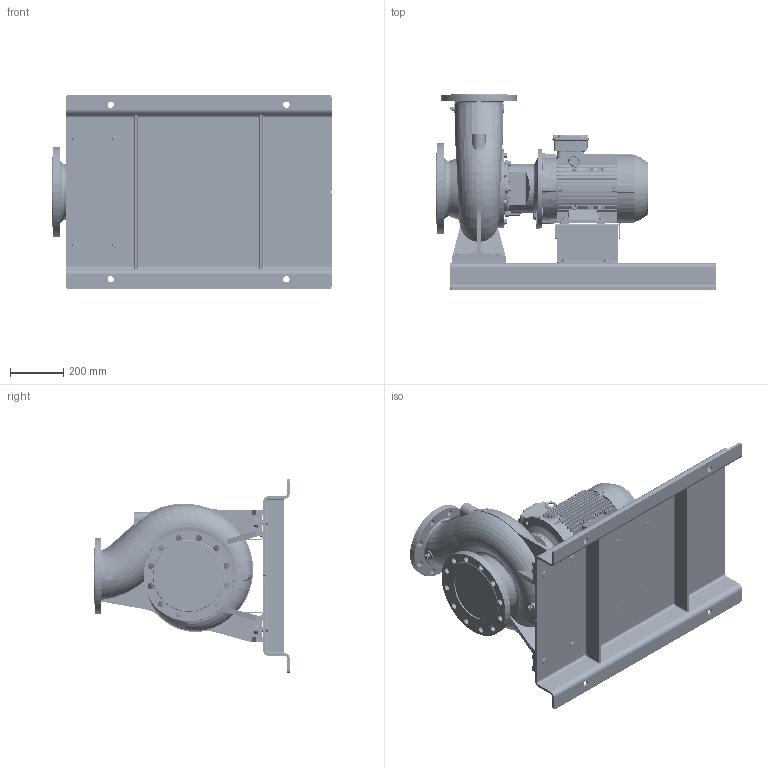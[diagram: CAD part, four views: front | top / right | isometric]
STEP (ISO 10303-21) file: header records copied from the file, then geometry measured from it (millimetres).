
FILE_DESCRIPTION (( 'STEP AP214' ), '1' );
FILE_NAME ('GSD4 150-200_5.5_(132S)_W21_BP.STEP', '2026-05-08T01:22:02', ( '' ), ( '' ), 'SwSTEP 2.0', 'SolidWorks 2024', '' );
FILE_SCHEMA (( 'AUTOMOTIVE_DESIGN' ));
Length unit declared in the file: millimetre
Products named in the file (13): Parametric bolt and washer_SFT-A403B; N9S5 GSDA-951 F1-1832965-00; GSD4 150-200_5.5_(132S)_W21_BP; Parametric bolt and washer_SFT-A249B; 150-200-132S_ﾃﾞﾌｫﾙﾄ; 132S ALIE3_W21T_B35; Parametric bolt_SFT-A403B; 140_178 x 148 BP - CGSDA-5246; Parametric bolt_SFT-A253B; Parametric bolt_SFT-A249B; Parametric Flat Washer_M10; Parametric bolt and washer_SFT-A253B; Parametric Flat Washer_M20
Assembly tree (22 placements, depth 3):
  GSD4 150-200_5.5_(132S)_W21_BP
    150-200-132S_ﾃﾞﾌｫﾙﾄ
    N9S5 GSDA-951 F1-1832965-00
    140_178 x 148 BP - CGSDA-5246
    Parametric bolt and washer_SFT-A403B  x4
      Parametric bolt_SFT-A403B
      Parametric Flat Washer_M20
    Parametric bolt and washer_SFT-A249B  x4
      Parametric bolt_SFT-A249B
      Parametric Flat Washer_M10
    Parametric bolt and washer_SFT-A253B  x4
      Parametric bolt_SFT-A253B
      Parametric Flat Washer_M10
    132S ALIE3_W21T_B35
Bounding box: 1050 x 735 x 730 mm (x, y, z)
Volume: 66192017.1 mm3; surface area: 4901480.7 mm2
Topology: 38 solids, 38 shells, 5078 faces, 13088 edges, 8425 vertices
Faces by surface type: plane 2975, cylinder 1242, bspline 287, torus 277, cone 265, sphere 32
Entity records: 194568 total; most frequent: CARTESIAN_POINT 85642, ORIENTED_EDGE 23348, DIRECTION 21185, EDGE_CURVE 11674, LINE 7783, VECTOR 7783, VERTEX_POINT 7516, AXIS2_PLACEMENT_3D 6701
